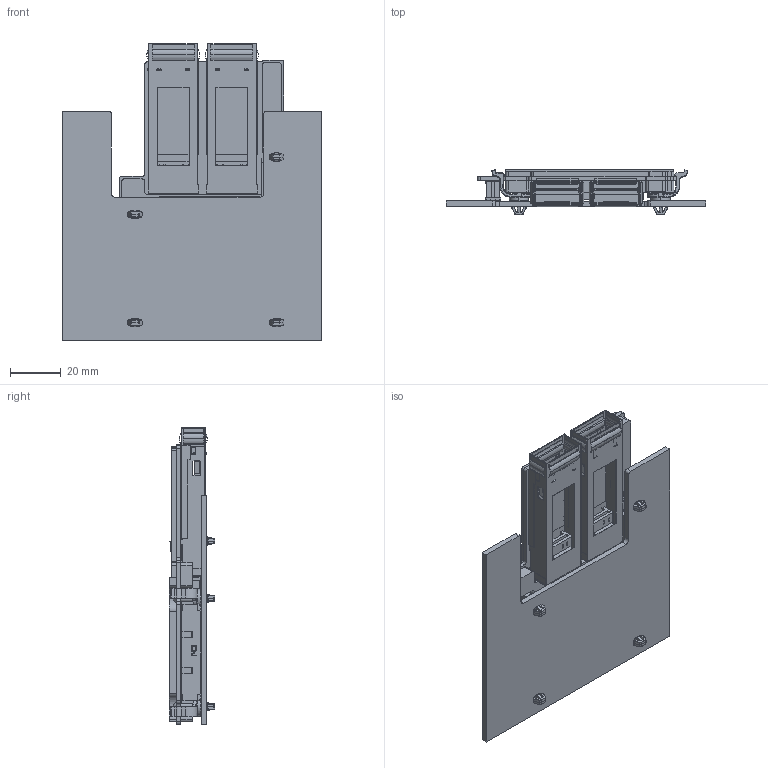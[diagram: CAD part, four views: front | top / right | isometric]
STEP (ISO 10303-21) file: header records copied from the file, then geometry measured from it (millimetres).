
FILE_DESCRIPTION((''),'2;1');
FILE_NAME('OCP-MZ-2_0-BD-ASSY_1X4SFP_8MM_ASM','2015-10-23T',('95030616'),(''),'PRO/ENGINEER BY PARAMETRIC TECHNOLOGY CORPORATION, 2013040','PRO/ENGINEER BY PARAMETRIC TECHNOLOGY CORPORATION, 2013040','');
FILE_SCHEMA(('AUTOMOTIVE_DESIGN { 1 0 10303 214 1 1 1 1 }'));
Products named in the file (21): OCP-2_0-BOARD_2; F01-LED-EVERLIGHT; FCI-P61083-124X2XXX_2; FCI_61083_084402LF_LEOPARD_E1; BTM-KEEPOUT-2MM; BTM-KEEPOUT-2_9MM; TOP-KEEPOUT-4_5MM; TOP-KEEPOUT-4_5MM-3; TOP-KEEPOUT-4MM; TOP-KEEPOUT-4MM-2; TOP-KEEPOUT-7_5MM; PORTION_MB_LEOPARD_E1_FILLED; FCI_61082_081402LF_LEOPARD_E1; CN120_GPN2_0-8_SMD_H_F-E1; 64POS-REC1; ASSY_PORTION_MB_LEOPARD_E1_ASM__ASM; F06-MEZZ-LATCH-RIGHT-8MM; M-U90-A111-1001-REVT1; M-FS1-E38-X0M0-X0-REVT1; F06-MEZZ-LATCH-LEFT-8MM; OCP-MZ-2_0-BD-ASSY_1X4SFP_8MM_ASM
Assembly tree (27 placements, depth 3):
  OCP-MZ-2_0-BD-ASSY_1X4SFP_8MM_ASM
    OCP-2_0-BOARD_2
    F01-LED-EVERLIGHT  x4
    FCI-P61083-124X2XXX_2
    FCI_61083_084402LF_LEOPARD_E1
    BTM-KEEPOUT-2MM
    BTM-KEEPOUT-2_9MM
    TOP-KEEPOUT-4_5MM
    TOP-KEEPOUT-4_5MM-3
    TOP-KEEPOUT-4MM
    TOP-KEEPOUT-4MM-2
    TOP-KEEPOUT-7_5MM
    ASSY_PORTION_MB_LEOPARD_E1_ASM__ASM
      PORTION_MB_LEOPARD_E1_FILLED
      FCI_61082_081402LF_LEOPARD_E1
      CN120_GPN2_0-8_SMD_H_F-E1
      64POS-REC1
    F06-MEZZ-LATCH-RIGHT-8MM  x3
    M-U90-A111-1001-REVT1  x2
    M-FS1-E38-X0M0-X0-REVT1  x2
    F06-MEZZ-LATCH-LEFT-8MM
Bounding box: 101.72 x 17.77 x 116.55 mm (x, y, z)
Volume: 82804.6 mm3; surface area: 87097 mm2
Topology: 26 solids, 26 shells, 10569 faces, 29905 edges, 19049 vertices
Faces by surface type: plane 8415, cylinder 1505, bspline 359, cone 130, sphere 124, torus 36
Entity records: 323480 total; most frequent: CARTESIAN_POINT 59804, ORIENTED_EDGE 48044, DIRECTION 41646, EDGE_CURVE 24022, VECTOR 21732, LINE 21732, VERTEX_POINT 15284, PRESENTATION_STYLE_ASSIGNMENT 12874
